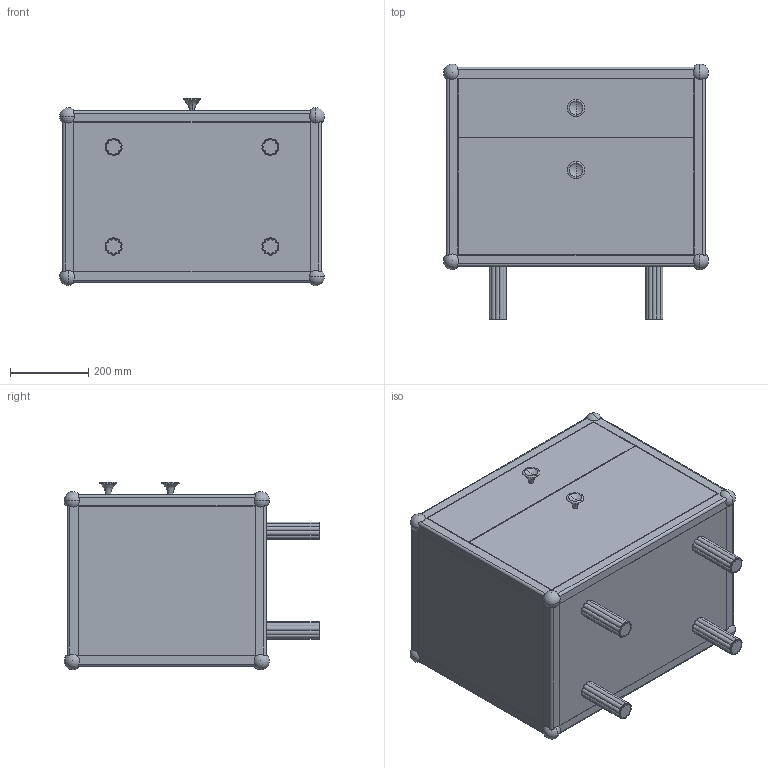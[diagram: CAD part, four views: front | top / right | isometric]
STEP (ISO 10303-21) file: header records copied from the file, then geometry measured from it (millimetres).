
FILE_DESCRIPTION (( 'STEP AP214' ), '1' );
FILE_NAME ('Lafayette Bedside Table_JMS_STP.STEP', '2021-04-09T18:44:03', ( '' ), ( '' ), 'SwSTEP 2.0', 'SolidWorks 2021', '' );
FILE_SCHEMA (( 'AUTOMOTIVE_DESIGN' ));
Length unit declared in the file: millimetre
Products named in the file (1): Lafayette Bedside Table_JMS_STP
Bounding box: 676.27 x 652.46 x 477.84 mm (x, y, z)
Volume: 40068503.2 mm3; surface area: 3765046.2 mm2
Topology: 1 solids, 1 shells, 304 faces, 824 edges, 486 vertices
Faces by surface type: plane 112, torus 108, cylinder 64, sphere 20
Entity records: 12970 total; most frequent: CARTESIAN_POINT 2079, DIRECTION 1734, ORIENTED_EDGE 1504, EDGE_CURVE 752, AXIS2_PLACEMENT_3D 701, VERTEX_POINT 470, CIRCLE 396, VECTOR 332
